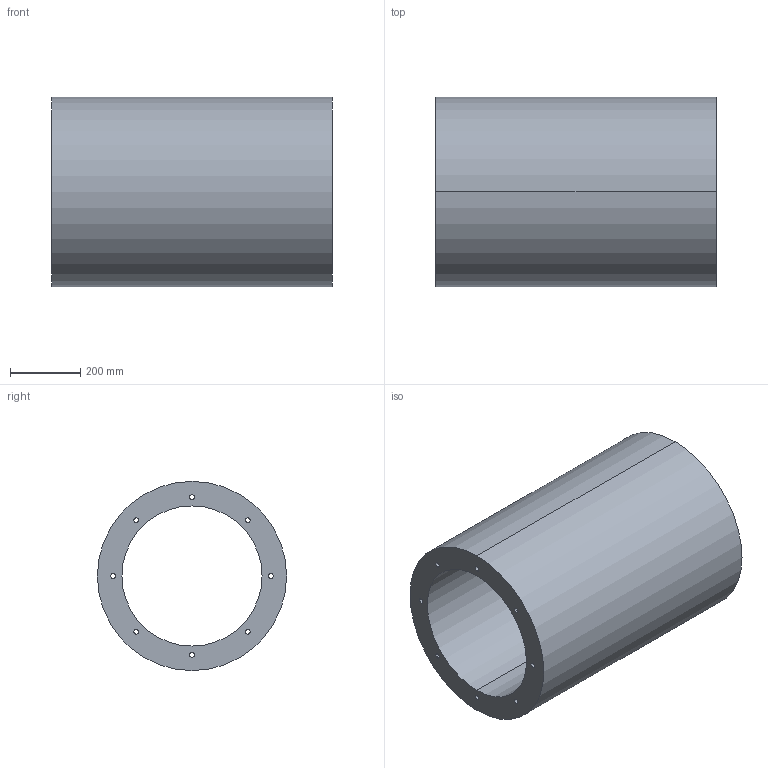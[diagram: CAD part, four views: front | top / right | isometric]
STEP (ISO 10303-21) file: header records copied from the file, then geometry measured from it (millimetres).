
FILE_DESCRIPTION(('STEP AP214'),'1');
FILE_NAME('accessory_5211810100.stp','2017-10-09T11:37:56',('TraceParts'),('TraceParts S.A.'),'Spatial InterOp 3D',' ',' ');
FILE_SCHEMA(('automotive_design'));
Length unit declared in the file: millimetre
Products named in the file (1): accessory_5211810100
Bounding box: 800 x 540 x 540 mm (x, y, z)
Volume: 81701515.2 mm3; surface area: 2848218.2 mm2
Topology: 1 solids, 1 shells, 22 faces, 60 edges, 40 vertices
Faces by surface type: cylinder 20, plane 2
Entity records: 952 total; most frequent: DIRECTION 146, CARTESIAN_POINT 123, ORIENTED_EDGE 120, AXIS2_PLACEMENT_3D 63, EDGE_CURVE 60, EDGE_LOOP 40, VERTEX_POINT 40, CIRCLE 40
